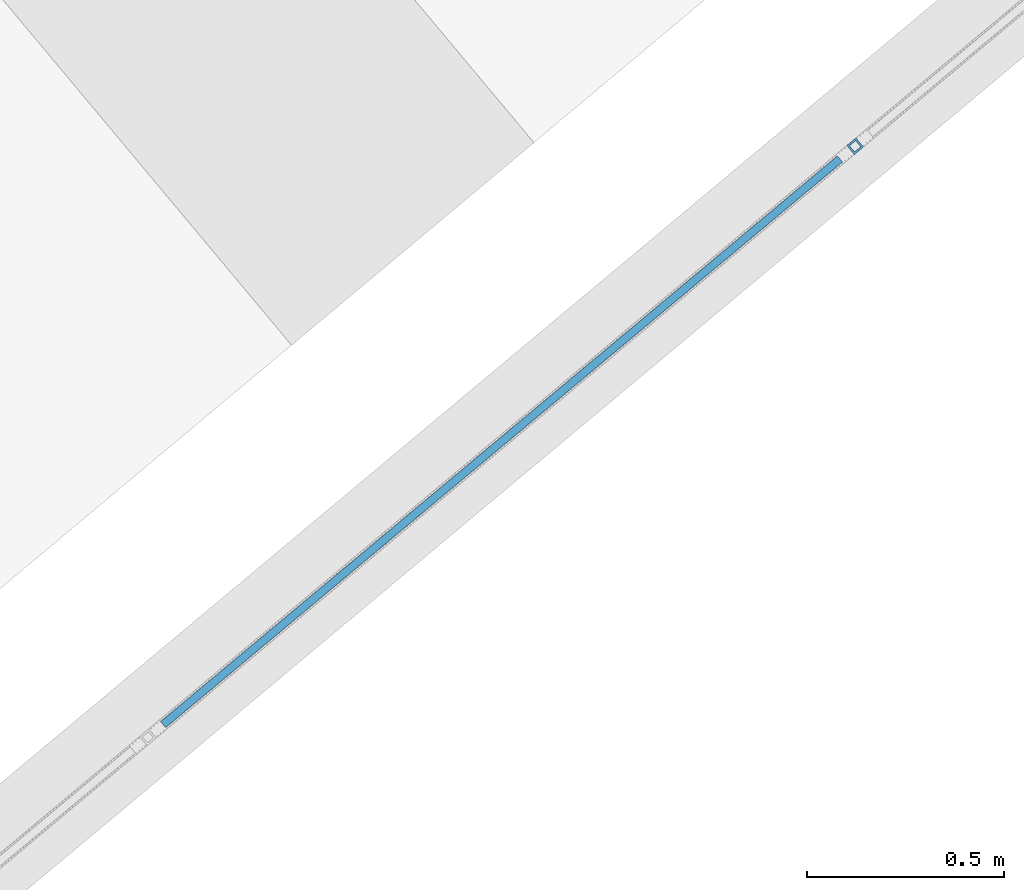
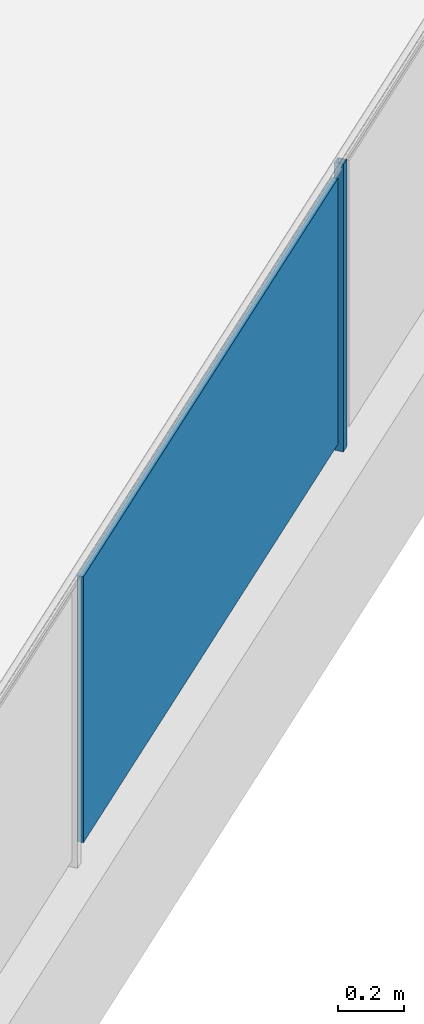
# One storey, part 23 of 67: 2 building element parts, 1 element without a shape of its own.
"""IFC4 building model written with IfcOpenShell, lengths in metres."""

from ifc_helpers import new_model, entity, si_unit, converted_unit, derived_unit, direction, frame, origin_with_axes, place, context, subcontext, project, spatial, polygons, material, type_object, element, aggregate, save


model = new_model("IFC4")

# Units and contexts
model_context = context("Model", 3, precision=1e-05, world=origin_with_axes(), true_north=direction((0.0, 1.0)))
body_context = subcontext(model_context, "Body", "Model", "MODEL_VIEW")
ifc_project = project(units=[si_unit("LENGTHUNIT", "METRE"), si_unit("AREAUNIT", "SQUARE_METRE"), si_unit("VOLUMEUNIT", "CUBIC_METRE"), converted_unit("PLANEANGLEUNIT", "DEGREE", entity("IfcPlaneAngleMeasure", 0.0174532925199), si_unit("PLANEANGLEUNIT", "RADIAN"), dimensions=[0, 0, 0, 0, 0, 0, 0]), converted_unit("TIMEUNIT", "Year", entity("IfcTimeMeasure", 31556926.0), si_unit("TIMEUNIT", "SECOND"), dimensions=[0, 0, 1, 0, 0, 0, 0]), si_unit("MASSUNIT", "GRAM", prefix="KILO"), si_unit("THERMODYNAMICTEMPERATUREUNIT", "DEGREE_CELSIUS"), si_unit("LUMINOUSINTENSITYUNIT", "LUMEN"), si_unit("ENERGYUNIT", "JOULE", prefix="MEGA"), derived_unit("THERMALCONDUCTANCEUNIT", [(si_unit("POWERUNIT", "WATT"), 1), (si_unit("LENGTHUNIT", "METRE"), -1), (si_unit("THERMODYNAMICTEMPERATUREUNIT", "KELVIN"), -1)]), derived_unit("SPECIFICHEATCAPACITYUNIT", [(si_unit("ENERGYUNIT", "JOULE"), 1), (si_unit("MASSUNIT", "GRAM", prefix="KILO"), -1), (si_unit("THERMODYNAMICTEMPERATUREUNIT", "KELVIN"), -1)]), derived_unit("MASSDENSITYUNIT", [(si_unit("MASSUNIT", "GRAM", prefix="KILO"), 1), (si_unit("VOLUMEUNIT", "CUBIC_METRE"), -1)])], contexts=[model_context])

# Site, building, storey
site_placement = place(None, frame((-0.00153261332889, -0.00661245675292, 0.0), z_axis=(0.0, 0.0, 1.0), x_axis=(1.0, 0.0, 0.0)))
site = spatial("IfcSite", under=ifc_project, at=site_placement, Name="Site", CompositionType="ELEMENT")
building_placement = place(site_placement, origin_with_axes())
building = spatial("IfcBuilding", under=site, at=building_placement, Name="Building", CompositionType="ELEMENT")
storey_placement = place(building_placement, frame((0.0, 0.0, -0.22), z_axis=(0.0, 0.0, 1.0), x_axis=(1.0, 0.0, 0.0)))
storey = spatial("IfcBuildingStorey", under=building, at=storey_placement, Name="EG", CompositionType="ELEMENT", Elevation=-0.22)

# Railing, building element parts
railing_type = type_object("IfcRailingType", Name="Geländerart", PredefinedType="NOTDEFINED")
railing_placement = place(storey_placement, frame((-12.1608341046, 23.557810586, 0.523948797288), z_axis=(0.0, 0.0, 1.0), x_axis=(1.0, 0.0, 0.0)))
railing = element("IfcRailing", 1, at=railing_placement, inside=storey, type_object=railing_type, Name="Geländer - 001", PredefinedType="NOTDEFINED")
ifc_material_1 = material(Name="Zaun")
building_element_part_1_placement = place(railing_placement, origin_with_axes())
building_element_part_1 = element("IfcBuildingElementPart", 2, at=building_element_part_1_placement, material=ifc_material_1, Name="Zaun", PredefinedType="NOTDEFINED", context=body_context, shape_type="Tessellation", body=[
    polygons([(21.0855301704, -15.9504115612, 0.05), (19.3713497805, -17.3830177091, 0.05), (19.3713497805, -17.3830177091, 1.03), (21.0855301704, -15.9504115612, 1.03), (19.3841752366, -17.3983639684, 0.05), (21.0983556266, -15.9657578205, 0.05), (19.3841752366, -17.3983639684, 1.03), (21.0983556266, -15.9657578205, 1.03)], [[[1, 2, 3, 4]], [[5, 2, 1, 6]], [[7, 3, 2, 5]], [[4, 3, 7, 8]], [[1, 4, 8, 6]], [[7, 5, 6, 8]]], closed=True),
])
ifc_material_2 = material(Name="Aluminium")
building_element_part_2_placement = place(railing_placement, origin_with_axes())
building_element_part_2 = element("IfcBuildingElementPart", 3, at=building_element_part_2_placement, material=ifc_material_2, Name="Aluminium", PredefinedType="NOTDEFINED", context=body_context, shape_type="Tessellation", body=[
    polygons([(21.1514373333, -15.9279116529, 0.0), (21.1321991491, -15.9048922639, 0.0), (21.1321991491, -15.9048922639, 1.06), (21.1514373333, -15.9279116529, 1.06), (21.1284179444, -15.9471498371, 0.0), (21.1091797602, -15.9241304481, 0.0), (21.1443944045, -15.9272814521, 0.0), (21.1315689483, -15.9119351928, 0.0), (21.116222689, -15.9247606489, 0.0), (21.1290481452, -15.9401069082, 0.0), (21.1091797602, -15.9241304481, 1.06), (21.1284179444, -15.9471498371, 1.06), (21.1443944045, -15.9272814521, 1.06), (21.1290481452, -15.9401069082, 1.06), (21.116222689, -15.9247606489, 1.06), (21.1315689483, -15.9119351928, 1.06)], [[[1, 2, 3, 4]], [[1, 5, 6, 2], [7, 8, 9, 10]], [[2, 6, 11, 3]], [[4, 3, 11, 12], [13, 14, 15, 16]], [[5, 1, 4, 12]], [[6, 5, 12, 11]], [[8, 7, 13, 16]], [[9, 8, 16, 15]], [[10, 9, 15, 14]], [[7, 10, 14, 13]]], closed=True),
])
aggregate(railing, [building_element_part_1, building_element_part_2])

save(model, "model.ifc")
